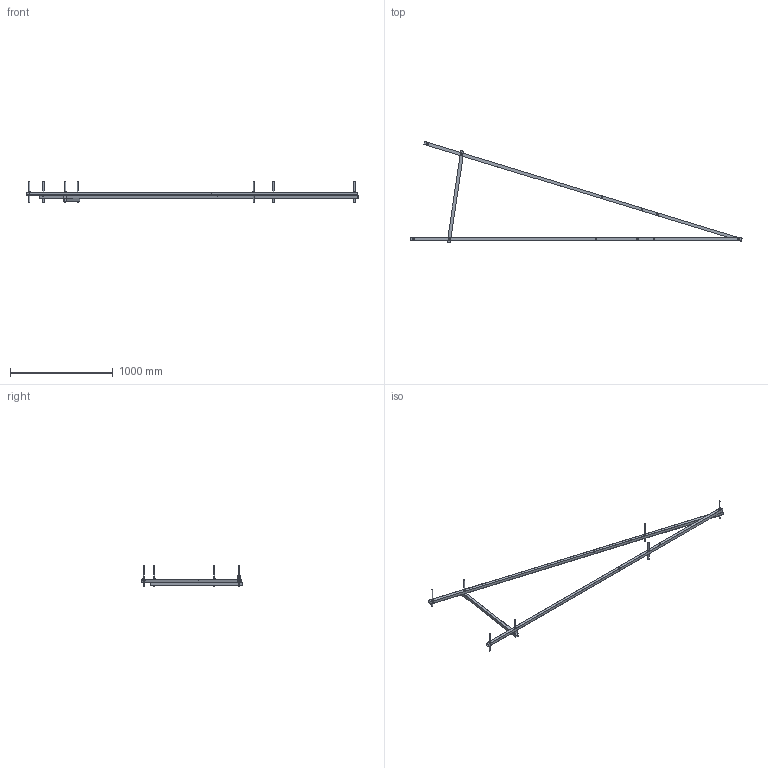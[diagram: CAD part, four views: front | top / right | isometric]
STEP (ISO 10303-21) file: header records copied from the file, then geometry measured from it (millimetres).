
FILE_DESCRIPTION(/* description */ (''),/* implementation_level */ '2;1');
FILE_NAME(/* name */ '2020TOMO-PAV-Assembly_Dima_A.stp',/* time_stamp */ '2022-05-16T13:52:38+02:00',/* author */ (''),/* organization */ (''),/* preprocessor_version */ 'ST-DEVELOPER v18.102',/* originating_system */ 'SIEMENS PLM Software NX 2000',/* authorisation */ '');
FILE_SCHEMA (('AUTOMOTIVE_DESIGN { 1 0 10303 214 3 1 1 1 }'));
Length unit declared in the file: millimetre
Products named in the file (1): turc3144724Fyyf1
Bounding box: 3233.01 x 985.77 x 200 mm (x, y, z)
Volume: 1438412.3 mm3; surface area: 1750890.3 mm2
Topology: 25 solids, 25 shells, 267 faces, 713 edges, 496 vertices
Faces by surface type: plane 166, cylinder 59, cone 42
Full cylindrical faces by diameter (mm): 4.2 x8, 10.579 x14, 12 x37
Entity records: 8109 total; most frequent: CARTESIAN_POINT 1890, DIRECTION 1136, ORIENTED_EDGE 1016, EDGE_CURVE 508, EDGE_LOOP 480, AXIS2_PLACEMENT_3D 478, VERTEX_POINT 392, FACE_BOUND 374
